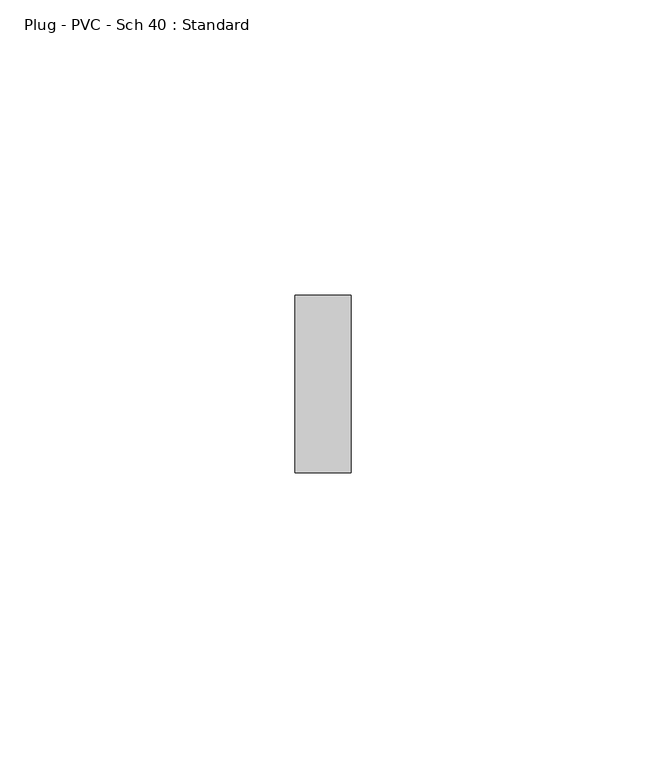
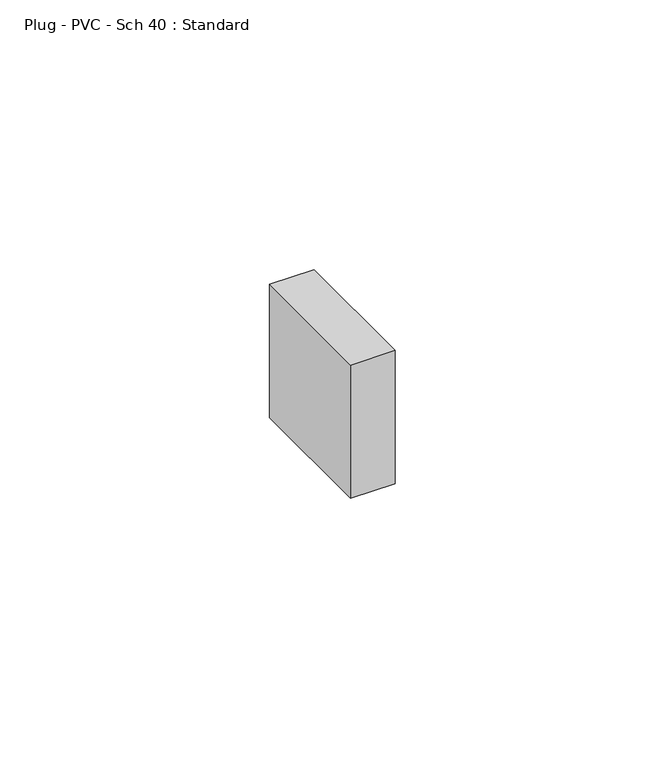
"""IFC4 building model written with IfcOpenShell, lengths in millimetres: pipe fitting geometry, Plug - PVC - Sch 40 : Standard."""

from ifc_helpers import new_model, si_unit, frame, origin, place, context, project, spatial, polyline, outline, extrude, source, transform, mapped, element, save


def plug_pvc_sch_40_standard_33adea0e(model_context):
    return source(origin(), model_context, "Body", "SweptSolid", [
        extrude(outline(polyline([(9.525, 15.08125), (9.525, -15.08125), (0.0, -15.08125), (0.0, 15.08125), (9.525, 15.08125)])), frame((0.0, 0.0, -15.08125), z_axis=(0.0, 0.0, 1.0), x_axis=(1.0, 0.0, 0.0)), (0.0, 0.0, 1.0), 30.1625),
    ])


if __name__ == "__main__":
    model = new_model("IFC4")
    model_context = context("Model", 3, world=origin())
    ifc_project = project(units=[si_unit("LENGTHUNIT", "METRE", prefix="MILLI")], contexts=[model_context])
    site = spatial("IfcSite", under=ifc_project)
    building = spatial("IfcBuilding", under=site)
    placement = place(None, origin())
    plug_pvc_sch_40_standard_shape = plug_pvc_sch_40_standard_33adea0e(model_context)
    element("IfcPipeFitting", 1, ObjectType="Plug - PVC - Sch 40 : Standard", at=placement, inside=building, context=model_context, shape_type="MappedRepresentation", body=[
        mapped(plug_pvc_sch_40_standard_shape, transform((0.0, 0.0, 0.0), x_axis=(1.0, 0.0, 0.0), y_axis=(0.0, 1.0, 0.0), z_axis=(0.0, 0.0, 1.0))),
    ])
    save(model, "model.ifc")
